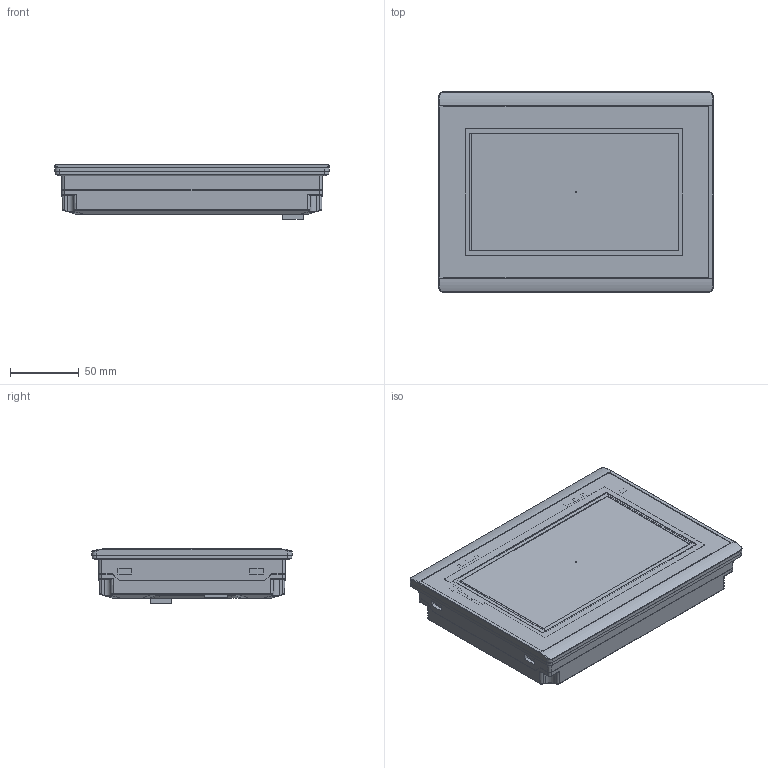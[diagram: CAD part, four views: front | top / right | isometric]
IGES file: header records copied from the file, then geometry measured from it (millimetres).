
Global section: file name: 7HNo Iges File Name specified; native system: AutoDesk Inventor R12.0; preprocessor: AutoDesk Inventor Iges Exporter R12.0; author: No Author specified; organization: No Organization specified; date: 20140318.141921; units: millimetre
Bounding box: 200 x 146 x 39.9 mm (x, y, z)
Volume: 332947.8 mm3; surface area: 253871 mm2
Topology: 1 solids, 4 shells, 3449 faces, 9774 edges, 6403 vertices
Faces by surface type: plane 2308, revolution 431, cylinder 315, torus 192, bspline 155, cone 39, sphere 9
